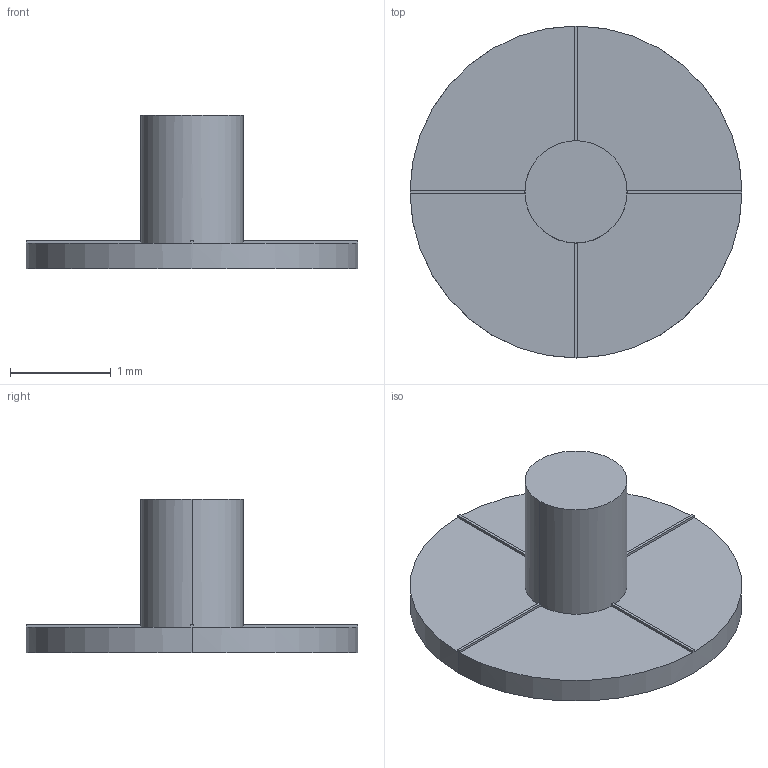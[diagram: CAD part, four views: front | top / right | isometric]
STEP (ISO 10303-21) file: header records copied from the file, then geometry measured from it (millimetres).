
FILE_DESCRIPTION((''),'2;1');
FILE_NAME('CONTACT_SIM_DUMMY-20','2020-09-24T20:57:36',('ccole'),(''),'CREO PARAMETRIC BY PTC INC, 2019292','CREO PARAMETRIC BY PTC INC, 2019292','');
FILE_SCHEMA(('CONFIG_CONTROL_DESIGN'));
Length unit declared in the file: inch
Products named in the file (1): CONTACT_SIM_DUMMY-20
Bounding box: 3.3 x 3.3 x 1.52 mm (x, y, z)
Volume: 3.2 mm3; surface area: 24 mm2
Topology: 1 solids, 1 shells, 26 faces, 64 edges, 40 vertices
Faces by surface type: plane 22, cylinder 4
Entity records: 802 total; most frequent: CARTESIAN_POINT 142, DIRECTION 128, ORIENTED_EDGE 128, EDGE_CURVE 64, AXIS2_PLACEMENT_3D 44, VECTOR 40, LINE 40, VERTEX_POINT 40
